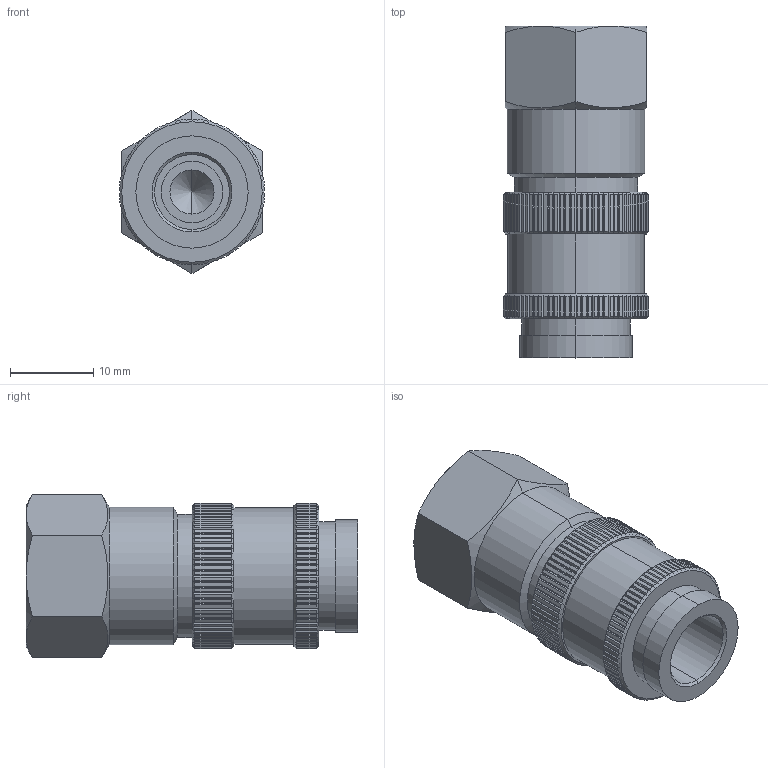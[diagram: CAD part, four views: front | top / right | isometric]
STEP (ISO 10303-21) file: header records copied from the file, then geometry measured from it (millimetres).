
FILE_DESCRIPTION (( 'STEP AP214' ), '1' );
FILE_NAME ('TZS-SF.STEP', '2022-04-26T15:53:59', ( '' ), ( '' ), 'SwSTEP 2.0', 'SolidWorks 2022', '' );
FILE_SCHEMA (( 'AUTOMOTIVE_DESIGN' ));
Length unit declared in the file: millimetre
Products named in the file (1): TZS-SF
Bounding box: 17.5 x 39.9 x 19.63 mm (x, y, z)
Volume: 6279.9 mm3; surface area: 3980.6 mm2
Topology: 1 solids, 1 shells, 542 faces, 1564 edges, 1032 vertices
Faces by surface type: plane 337, cylinder 180, cone 25
Entity records: 24457 total; most frequent: CARTESIAN_POINT 5195, ORIENTED_EDGE 3124, DIRECTION 2369, EDGE_CURVE 1562, VERTEX_POINT 1032, AXIS2_PLACEMENT_3D 922, B_SPLINE_CURVE_WITH_KNOTS 658, EDGE_LOOP 552
